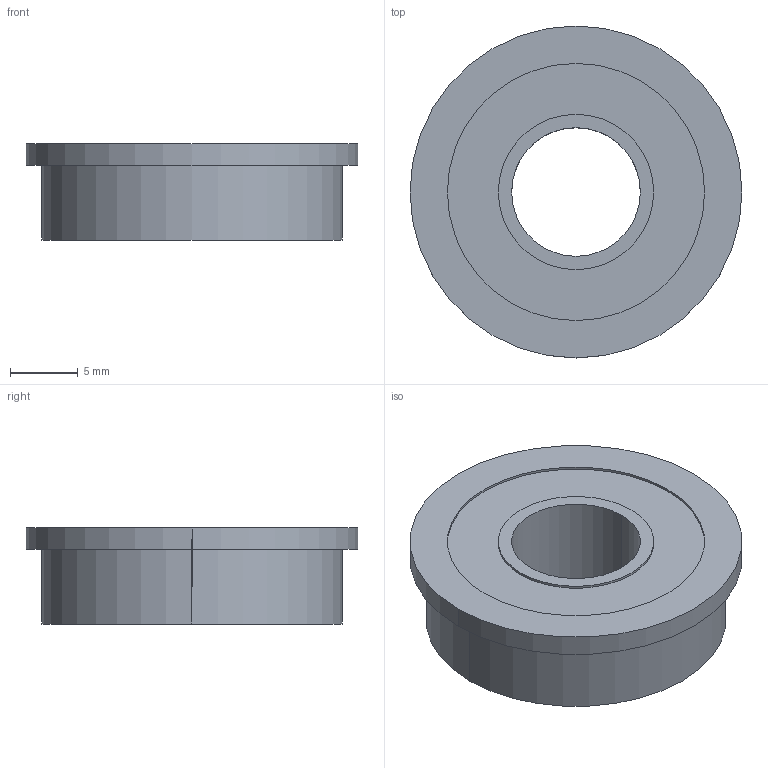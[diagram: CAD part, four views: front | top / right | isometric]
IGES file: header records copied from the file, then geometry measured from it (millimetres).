
Global section: file name: C:\Documents and Settings\Administrator\My Documents\FIRST Project\bearingflanged0375.igs; native system: AutoDesk Inventor R2.0 ; preprocessor: AutoDesk Inventor Iges Exporter R2.0; author: No Author specified; organization: No Organization specified; date: 20011206.210300; units: inch
Bounding box: 24.59 x 24.59 x 7.11 mm (x, y, z)
Surface area: 1562.3 mm2 (no closed solid volume)
Topology: 0 solids, 0 shells, 21 faces, 84 edges, 84 vertices
Faces by surface type: revolution 14, bspline 7
